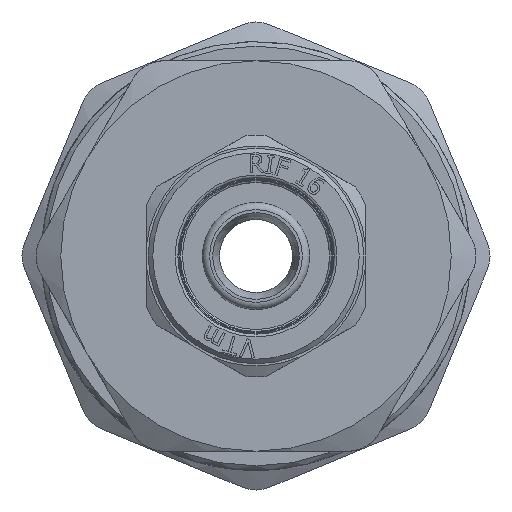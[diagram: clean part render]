
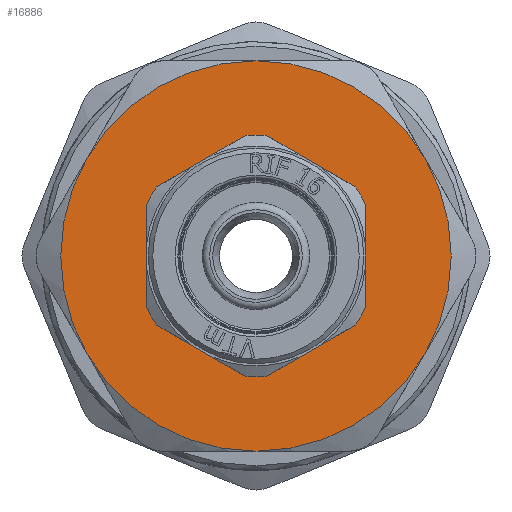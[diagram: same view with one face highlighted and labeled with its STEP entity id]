
A CAD part, left-side view. The second image highlights one B-rep face of the part: STEP entity #16886.
In plain terms, the highlighted planar face has unit normal (-1, 0, 0).
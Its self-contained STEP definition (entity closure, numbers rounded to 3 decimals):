
#445=PLANE('',#17888);
#935=FACE_BOUND('',#3311,.T.);
#1003=CIRCLE('',#17136,21.4);
#1004=CIRCLE('',#17138,21.4);
#1005=CIRCLE('',#17140,21.4);
#1006=CIRCLE('',#17142,21.4);
#1007=CIRCLE('',#17144,21.4);
#1425=CIRCLE('',#17886,9.1);
#1426=CIRCLE('',#17887,9.1);
#1427=CIRCLE('',#17889,21.4);
#2333=FACE_OUTER_BOUND('',#3310,.T.);
#3310=EDGE_LOOP('',(#15717,#15718,#15719,#15720,#15721,#15722));
#3311=EDGE_LOOP('',(#15723,#15724));
#6927=VERTEX_POINT('',#25165);
#6935=VERTEX_POINT('',#25213);
#6949=VERTEX_POINT('',#25294);
#6952=VERTEX_POINT('',#25313);
#6960=VERTEX_POINT('',#25361);
#6967=VERTEX_POINT('',#25408);
#8141=VERTEX_POINT('',#37121);
#8142=VERTEX_POINT('',#37123);
#8888=EDGE_CURVE('',#6952,#6949,#1003,.T.);
#8889=EDGE_CURVE('',#6949,#6935,#1004,.T.);
#8890=EDGE_CURVE('',#6960,#6952,#1005,.T.);
#8891=EDGE_CURVE('',#6935,#6927,#1006,.T.);
#8892=EDGE_CURVE('',#6967,#6960,#1007,.T.);
#10701=EDGE_CURVE('',#8141,#8142,#1425,.T.);
#10702=EDGE_CURVE('',#8142,#8141,#1426,.T.);
#10703=EDGE_CURVE('',#6927,#6967,#1427,.T.);
#15717=ORIENTED_EDGE('',*,*,#8891,.T.);
#15718=ORIENTED_EDGE('',*,*,#10703,.T.);
#15719=ORIENTED_EDGE('',*,*,#8892,.T.);
#15720=ORIENTED_EDGE('',*,*,#8890,.T.);
#15721=ORIENTED_EDGE('',*,*,#8888,.T.);
#15722=ORIENTED_EDGE('',*,*,#8889,.T.);
#15723=ORIENTED_EDGE('',*,*,#10702,.F.);
#15724=ORIENTED_EDGE('',*,*,#10701,.F.);
#16886=ADVANCED_FACE('',(#2333,#935),#445,.T.);
#17136=AXIS2_PLACEMENT_3D('',#25426,#18668,#18669);
#17138=AXIS2_PLACEMENT_3D('',#25428,#18672,#18673);
#17140=AXIS2_PLACEMENT_3D('',#25430,#18676,#18677);
#17142=AXIS2_PLACEMENT_3D('',#25432,#18680,#18681);
#17144=AXIS2_PLACEMENT_3D('',#25434,#18684,#18685);
#17886=AXIS2_PLACEMENT_3D('',#37124,#20923,#20924);
#17887=AXIS2_PLACEMENT_3D('',#37125,#20925,#20926);
#17888=AXIS2_PLACEMENT_3D('',#37126,#20927,#20928);
#17889=AXIS2_PLACEMENT_3D('',#37127,#20929,#20930);
#18668=DIRECTION('center_axis',(-1.,0.,0.));
#18669=DIRECTION('ref_axis',(0.,0.,1.));
#18672=DIRECTION('center_axis',(-1.,0.,0.));
#18673=DIRECTION('ref_axis',(0.,0.,1.));
#18676=DIRECTION('center_axis',(-1.,0.,0.));
#18677=DIRECTION('ref_axis',(0.,0.,1.));
#18680=DIRECTION('center_axis',(-1.,0.,0.));
#18681=DIRECTION('ref_axis',(0.,0.,1.));
#18684=DIRECTION('center_axis',(-1.,0.,0.));
#18685=DIRECTION('ref_axis',(0.,0.,1.));
#20923=DIRECTION('center_axis',(-1.,0.,0.));
#20924=DIRECTION('ref_axis',(0.,0.,1.));
#20925=DIRECTION('center_axis',(-1.,0.,0.));
#20926=DIRECTION('ref_axis',(0.,0.,1.));
#20927=DIRECTION('center_axis',(-1.,0.,0.));
#20928=DIRECTION('ref_axis',(0.,0.,1.));
#20929=DIRECTION('center_axis',(-1.,0.,0.));
#20930=DIRECTION('ref_axis',(0.,0.,1.));
#25165=CARTESIAN_POINT('',(-9.,-18.533,10.7));
#25213=CARTESIAN_POINT('',(-9.,-18.533,-10.7));
#25294=CARTESIAN_POINT('',(-9.,0.,-21.4));
#25313=CARTESIAN_POINT('',(-9.,18.533,-10.7));
#25361=CARTESIAN_POINT('',(-9.,18.533,10.7));
#25408=CARTESIAN_POINT('',(-9.,0.,21.4));
#25426=CARTESIAN_POINT('Origin',(-9.,0.,0.));
#25428=CARTESIAN_POINT('Origin',(-9.,0.,0.));
#25430=CARTESIAN_POINT('Origin',(-9.,0.,0.));
#25432=CARTESIAN_POINT('Origin',(-9.,0.,0.));
#25434=CARTESIAN_POINT('Origin',(-9.,0.,0.));
#37121=CARTESIAN_POINT('',(-9.,9.1,0.));
#37123=CARTESIAN_POINT('',(-9.,-9.1,0.));
#37124=CARTESIAN_POINT('Origin',(-9.,0.,0.));
#37125=CARTESIAN_POINT('Origin',(-9.,0.,0.));
#37126=CARTESIAN_POINT('Origin',(-9.,-9.1,0.));
#37127=CARTESIAN_POINT('Origin',(-9.,0.,0.));
